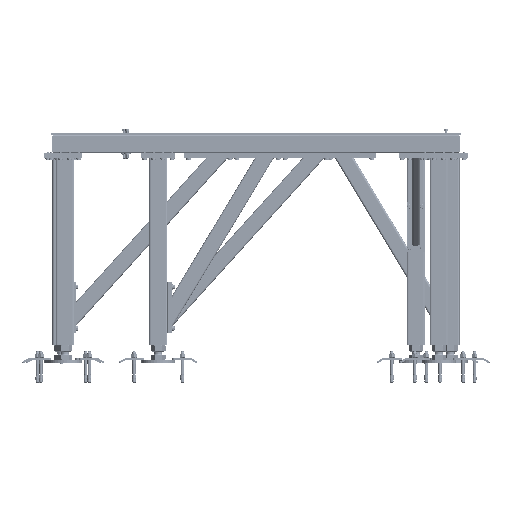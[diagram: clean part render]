
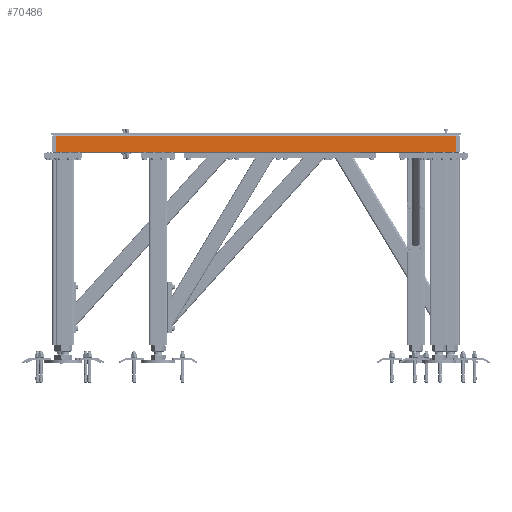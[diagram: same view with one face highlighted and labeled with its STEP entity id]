
A CAD part, front view. The second image highlights one B-rep face of the part: STEP entity #70486.
In plain terms, the highlighted planar face has unit normal (0, -1, 0).
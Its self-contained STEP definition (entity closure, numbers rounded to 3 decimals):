
#427 = CARTESIAN_POINT ( 'NONE',  ( 41675., 32555., 34. ) ) ;
#4299 = VECTOR ( 'NONE', #60660, 1000. ) ;
#9035 = CARTESIAN_POINT ( 'NONE',  ( 41675., 32555., -34. ) ) ;
#16311 = EDGE_CURVE ( 'NONE', #21476, #61338, #42081, .T. ) ;
#16533 = DIRECTION ( 'NONE',  ( 0., 0., 1. ) ) ;
#20736 = CARTESIAN_POINT ( 'NONE',  ( 39975., 32555., 34. ) ) ;
#21476 = VERTEX_POINT ( 'NONE', #66616 ) ;
#23852 = CARTESIAN_POINT ( 'NONE',  ( 41675., 32555., 34. ) ) ;
#25089 = ORIENTED_EDGE ( 'NONE', *, *, #29518, .F. ) ;
#28360 = DIRECTION ( 'NONE',  ( -1., 0., 0. ) ) ;
#29518 = EDGE_CURVE ( 'NONE', #50398, #21476, #75397, .T. ) ;
#30773 = LINE ( 'NONE', #23852, #79251 ) ;
#37915 = DIRECTION ( 'NONE',  ( -1., 0., 0. ) ) ;
#42081 = LINE ( 'NONE', #20736, #4299 ) ;
#45816 = ORIENTED_EDGE ( 'NONE', *, *, #68911, .T. ) ;
#47828 = EDGE_CURVE ( 'NONE', #77929, #50398, #85365, .T. ) ;
#50398 = VERTEX_POINT ( 'NONE', #60018 ) ;
#50961 = EDGE_LOOP ( 'NONE', ( #57206, #25089, #71150, #45816 ) ) ;
#51329 = AXIS2_PLACEMENT_3D ( 'NONE', #427, #55564, #16533 ) ;
#55230 = FACE_OUTER_BOUND ( 'NONE', #50961, .T. ) ;
#55564 = DIRECTION ( 'NONE',  ( 0., 1., 0. ) ) ;
#57206 = ORIENTED_EDGE ( 'NONE', *, *, #16311, .F. ) ;
#60018 = CARTESIAN_POINT ( 'NONE',  ( 41715., 32555., -34. ) ) ;
#60660 = DIRECTION ( 'NONE',  ( 0., 0., 1. ) ) ;
#61338 = VERTEX_POINT ( 'NONE', #70390 ) ;
#63199 = VECTOR ( 'NONE', #86088, 1000. ) ;
#66616 = CARTESIAN_POINT ( 'NONE',  ( 39975., 32555., -34. ) ) ;
#68137 = CARTESIAN_POINT ( 'NONE',  ( 41715., 32555., 34. ) ) ;
#68911 = EDGE_CURVE ( 'NONE', #77929, #61338, #30773, .T. ) ;
#70390 = CARTESIAN_POINT ( 'NONE',  ( 39975., 32555., 34. ) ) ;
#70486 = ADVANCED_FACE ( 'NONE', ( #55230 ), #75598, .F. ) ;
#71150 = ORIENTED_EDGE ( 'NONE', *, *, #47828, .F. ) ;
#75397 = LINE ( 'NONE', #9035, #78547 ) ;
#75598 = PLANE ( 'NONE',  #51329 ) ;
#77929 = VERTEX_POINT ( 'NONE', #68137 ) ;
#78547 = VECTOR ( 'NONE', #28360, 1000. ) ;
#79251 = VECTOR ( 'NONE', #37915, 1000. ) ;
#85365 = LINE ( 'NONE', #85790, #63199 ) ;
#85790 = CARTESIAN_POINT ( 'NONE',  ( 41715., 32555., 34. ) ) ;
#86088 = DIRECTION ( 'NONE',  ( 0., 0., -1. ) ) ;
